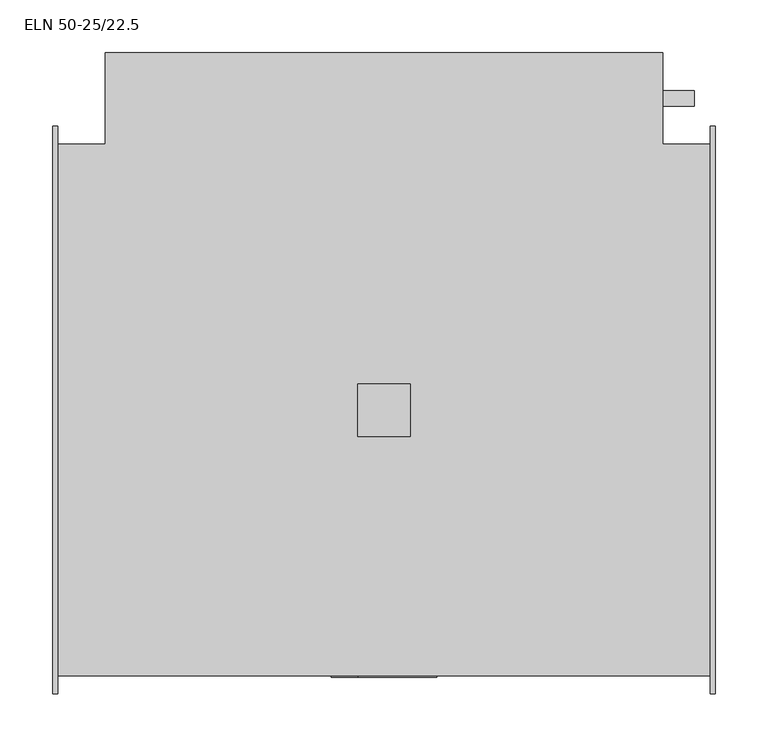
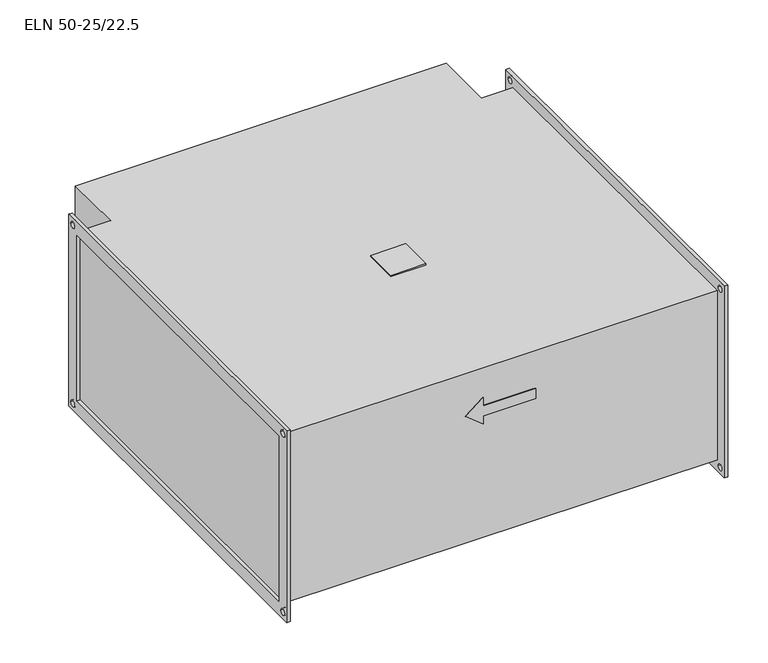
"""IFC4 building model written with IfcOpenShell, lengths in millimetres: proxy geometry, KORF_Нагреватель_Электрический_ELN : ELN 50-25/22.5."""

import ifcopenshell
import ifcopenshell.guid

model = None  # the IFC model being written
_history = None  # IfcOwnerHistory: only IFC2X3 demands one
_inside = {}  # id of a spatial element -> (the spatial element, [elements in it])
_under = {}  # id of a project, library or spatial element -> (it, [spatial elements below it])
_declared = {}  # id of a project -> (the project, [libraries it declares])
_typed = {}  # id of a type object -> (the type object, [elements of that type])
_made_of = {}  # id of a material, layer set ... -> (it, [elements and type objects made of it])


def new_model(schema):
    """Start an empty IFC model of exactly this schema.

    Asked for "IFC4X3", IfcOpenShell would pick the latest addendum, in which some entities
    have other attributes; the version numbers below select the first issue.
    IFC2X3 requires an IfcOwnerHistory on every rooted entity: one is made here for all.
    """
    global model, _history
    if schema == "IFC4X3":
        model = ifcopenshell.file(schema_version=(4, 3, 0, 0))
    else:
        model = ifcopenshell.file(schema=schema)
    _inside.clear()
    _under.clear()
    _declared.clear()
    _typed.clear()
    _made_of.clear()
    _history = None
    if model.schema == "IFC2X3":
        org = make("IfcOrganization", Name="unknown")
        user = make(
            "IfcPersonAndOrganization",
            ThePerson=make("IfcPerson", FamilyName="unknown"),
            TheOrganization=org,
        )
        app = make(
            "IfcApplication",
            ApplicationDeveloper=org,
            Version="unknown",
            ApplicationFullName="unknown",
            ApplicationIdentifier="unknown",
        )
        _history = make(
            "IfcOwnerHistory",
            OwningUser=user,
            OwningApplication=app,
            ChangeAction="ADDED",
            CreationDate=0,
        )
    return model


def make(cls, **values):
    """One entity of the class cls with the attributes given. An attribute that is None is left unset."""
    return model.create_entity(
        cls, **{name: value for name, value in values.items() if value is not None}
    )


def rooted(cls, **values):
    """An entity with a GlobalId (a new one), such as an element, a storey or a relation."""
    return make(cls, GlobalId=ifcopenshell.guid.new(), OwnerHistory=_history, **values)


def si_unit(unit_type, name, prefix=None):
    """IfcSIUnit, for example si_unit("LENGTHUNIT", "METRE", prefix="MILLI")."""
    return make("IfcSIUnit", UnitType=unit_type, Prefix=prefix, Name=name)


def assignment(units):
    """IfcUnitAssignment: the units of a project."""
    return None if units is None else make("IfcUnitAssignment", Units=units)


def point(xyz):
    """IfcCartesianPoint."""
    return None if xyz is None else make("IfcCartesianPoint", Coordinates=xyz)


def direction(xyz):
    """IfcDirection."""
    return None if xyz is None else make("IfcDirection", DirectionRatios=xyz)


def frame(location, z_axis=None, x_axis=None):
    """IfcAxis2Placement3D, a coordinate frame: its origin and axes. An axis left out is left unset."""
    return make(
        "IfcAxis2Placement3D",
        Location=point(location),
        Axis=direction(z_axis),
        RefDirection=direction(x_axis),
    )


def frame_2d(location, x_axis=None):
    """IfcAxis2Placement2D, a coordinate frame in the plane: its origin and x axis."""
    return make(
        "IfcAxis2Placement2D", Location=point(location), RefDirection=direction(x_axis)
    )


def origin():
    """The frame at (0, 0, 0) with its axes left unset."""
    return frame((0.0, 0.0, 0.0))


def place(relative_to, where):
    """IfcLocalPlacement: puts the frame where relative to a parent placement (None: the world)."""
    return make(
        "IfcLocalPlacement", PlacementRelTo=relative_to, RelativePlacement=where
    )


def context(
    kind, dimensions, precision=None, world=None, true_north=None, identifier=None
):
    """IfcGeometricRepresentationContext, for example the 3D "Model" context."""
    return make(
        "IfcGeometricRepresentationContext",
        ContextIdentifier=identifier,
        ContextType=kind,
        CoordinateSpaceDimension=dimensions,
        Precision=precision,
        WorldCoordinateSystem=world,
        TrueNorth=true_north,
    )


def project(units=None, contexts=None):
    """IfcProject with its units and contexts."""
    return rooted(
        "IfcProject",
        Name="project",
        RepresentationContexts=contexts,
        UnitsInContext=assignment(units),
    )


def spatial(cls, under=None, at=None, **own):
    """A site, building, storey or space (cls), placed at a placement, below another one or the project."""
    s = rooted(cls, ObjectPlacement=at, **own)
    if under is not None:
        _under.setdefault(under.id(), (under, []))[1].append(s)
    return s


def polyline(points):
    """IfcPolyline through the points."""
    return make("IfcPolyline", Points=[point(p) for p in points])


def circle_curve(where, radius):
    """IfcCircle in the frame where."""
    return make("IfcCircle", Position=where, Radius=radius)


def trimmed(basis, trim1, trim2, sense, master):
    """IfcTrimmedCurve: the piece of a basis curve between two trims."""
    return make(
        "IfcTrimmedCurve",
        BasisCurve=basis,
        Trim1=trim1,
        Trim2=trim2,
        SenseAgreement=sense,
        MasterRepresentation=master,
    )


def segment(curve, same_sense, transition):
    """IfcCompositeCurveSegment."""
    return make(
        "IfcCompositeCurveSegment",
        Transition=transition,
        SameSense=same_sense,
        ParentCurve=curve,
    )


def composite_curve(segments, self_intersect=None):
    """IfcCompositeCurve: segments joined end to end."""
    return make("IfcCompositeCurve", Segments=segments, SelfIntersect=self_intersect)


def outline(outer, holes=None, kind="AREA"):
    """IfcArbitraryClosedProfileDef: a profile drawn as a closed curve; with holes, ...WithVoids."""
    if holes is None:
        return make("IfcArbitraryClosedProfileDef", ProfileType=kind, OuterCurve=outer)
    return make(
        "IfcArbitraryProfileDefWithVoids",
        ProfileType=kind,
        OuterCurve=outer,
        InnerCurves=holes,
    )


def extrude(swept, where, along, depth):
    """IfcExtrudedAreaSolid: the profile swept, set in the frame where, extruded along a direction by depth."""
    return make(
        "IfcExtrudedAreaSolid",
        SweptArea=swept,
        Position=where,
        ExtrudedDirection=direction(along),
        Depth=depth,
    )


def shape(context_of_items, identifier, shape_type, items):
    """IfcShapeRepresentation: the items that make up one representation, for example the "Body"."""
    return make(
        "IfcShapeRepresentation",
        ContextOfItems=context_of_items,
        RepresentationIdentifier=identifier,
        RepresentationType=shape_type,
        Items=items,
    )


def source(mapping_origin, context_of_items, identifier, shape_type, items):
    """IfcRepresentationMap: a shape defined once, which mapped items show again and again."""
    return make(
        "IfcRepresentationMap",
        MappingOrigin=mapping_origin,
        MappedRepresentation=shape(context_of_items, identifier, shape_type, items),
    )


def transform(
    local_origin,
    x_axis=None,
    y_axis=None,
    z_axis=None,
    scale=None,
    scale2=None,
    scale3=None,
    uniform=True,
):
    """IfcCartesianTransformationOperator3D, or its non-uniform kind. x_axis, y_axis, z_axis: its Axis1, 2, 3."""
    if uniform:
        return make(
            "IfcCartesianTransformationOperator3D",
            Axis1=direction(x_axis),
            Axis2=direction(y_axis),
            LocalOrigin=point(local_origin),
            Scale=scale,
            Axis3=direction(z_axis),
        )
    return make(
        "IfcCartesianTransformationOperator3DnonUniform",
        Axis1=direction(x_axis),
        Axis2=direction(y_axis),
        LocalOrigin=point(local_origin),
        Scale=scale,
        Axis3=direction(z_axis),
        Scale2=scale2,
        Scale3=scale3,
    )


def mapped(mapping_source, mapping_target):
    """IfcMappedItem: shows the shape of a source again, moved by a transform."""
    return make(
        "IfcMappedItem", MappingSource=mapping_source, MappingTarget=mapping_target
    )


def made_of(thing, what):
    """Note that an element or type object is made of a material, layer set ...; save() writes the relation."""
    if what is not None:
        _made_of.setdefault(what.id(), (what, []))[1].append(thing)
    return thing


def element(
    cls,
    number,
    at=None,
    inside=None,
    cuts=None,
    type_object=None,
    material=None,
    context=None,
    identifier="Body",
    shape_type=None,
    held_by="IfcProductDefinitionShape",
    body=None,
    shapes=None,
    **own,
):
    """One element of the class cls, such as IfcWall. Its Tag is "e" and its number.

    at: its placement. inside: the storey or other place that contains it. cuts: it is an
    opening in that element (IfcRelVoidsElement). A single representation is given by context,
    identifier, shape_type and body (its items); several are given by shapes. held_by: the class
    of the entity that holds the representations. save() writes the other relations.
    """
    e = rooted(cls, Tag="e%d" % number, ObjectPlacement=at, **own)
    if body is not None:
        shapes = [shape(context, identifier, shape_type, body)]
    if shapes is not None:
        e.Representation = make(held_by, Representations=shapes)
    if inside is not None:
        _inside.setdefault(inside.id(), (inside, []))[1].append(e)
    if cuts is not None:
        rooted(
            "IfcRelVoidsElement", RelatingBuildingElement=cuts, RelatedOpeningElement=e
        )
    if type_object is not None:
        _typed.setdefault(type_object.id(), (type_object, []))[1].append(e)
    return made_of(e, material)


def aggregate(whole, parts):
    """IfcRelAggregates: a whole, such as a stair, and the parts it consists of."""
    return rooted("IfcRelAggregates", RelatingObject=whole, RelatedObjects=parts)


def save(model, path):
    """Write the relations noted so far, then the file.

    IfcRelAggregates (storeys below a building ...), IfcRelContainedInSpatialStructure (elements
    in a storey), IfcRelDefinesByType, IfcRelAssociatesMaterial and IfcRelDeclares: one each for
    every whole, place, type object, material and project.
    """
    for whole, parts in _under.values():
        aggregate(whole, parts)
    for where, things in _inside.values():
        rooted(
            "IfcRelContainedInSpatialStructure",
            RelatedElements=things,
            RelatingStructure=where,
        )
    for kind, things in _typed.values():
        rooted("IfcRelDefinesByType", RelatedObjects=things, RelatingType=kind)
    for what, things in _made_of.values():
        rooted("IfcRelAssociatesMaterial", RelatedObjects=things, RelatingMaterial=what)
    for by, libraries in _declared.values():
        rooted("IfcRelDeclares", RelatingContext=by, RelatedDefinitions=libraries)
    model.write(path)


def eln_50_25_22_5_e6b17856(model_context):
    return source(origin(), model_context, "Body", "SweptSolid", [
        extrude(outline(polyline([(290.0, -25.0), (290.0, 25.0), (340.0, 25.0), (340.0, -25.0), (290.0, -25.0)])), frame((0.0, 0.0, 128.0), z_axis=(0.0, 0.0, 1.0), x_axis=(1.0, 0.0, 0.0)), (0.0, 0.0, 1.0), 2.0),
        extrude(outline(composite_curve([segment(trimmed(circle_curve(frame_2d((296.5, -64.0)), 7.5), [point((289.0, -64.0))], [point((304.0, -64.0))], False, "CARTESIAN"), True, "CONTINUOUS"), segment(trimmed(circle_curve(frame_2d((296.5, -64.0)), 7.5), [point((304.0, -64.0))], [point((289.0, -64.0))], False, "CARTESIAN"), True, "CONTINUOUS")], self_intersect=False)), frame((580.0, 0.0, 0.0), z_axis=(1.0, 0.0, 0.0), x_axis=(0.0, 1.0, 0.0)), (0.0, 0.0, 1.0), 30.0),
        extrude(outline(composite_curve([segment(trimmed(circle_curve(frame_2d((296.5, -44.0)), 7.5), [point((289.0, -44.0))], [point((304.0, -44.0))], False, "CARTESIAN"), True, "CONTINUOUS"), segment(trimmed(circle_curve(frame_2d((296.5, -44.0)), 7.5), [point((304.0, -44.0))], [point((289.0, -44.0))], False, "CARTESIAN"), True, "CONTINUOUS")], self_intersect=False)), frame((580.0, 0.0, 0.0), z_axis=(1.0, 0.0, 0.0), x_axis=(0.0, 1.0, 0.0)), (0.0, 0.0, 1.0), 30.0),
        extrude(outline(composite_curve([segment(trimmed(circle_curve(frame_2d((296.5, -84.0)), 7.5), [point((289.0, -84.0))], [point((304.0, -84.0))], False, "CARTESIAN"), True, "CONTINUOUS"), segment(trimmed(circle_curve(frame_2d((296.5, -84.0)), 7.5), [point((304.0, -84.0))], [point((289.0, -84.0))], False, "CARTESIAN"), True, "CONTINUOUS")], self_intersect=False)), frame((580.0, 0.0, 0.0), z_axis=(1.0, 0.0, 0.0), x_axis=(0.0, 1.0, 0.0)), (0.0, 0.0, 1.0), 30.0),
        extrude(outline(polyline([(84.0, 290.0), (64.0, 265.0), (44.0, 290.0), (56.5, 290.0), (56.5, 365.0), (71.5, 365.0), (71.5, 290.0), (84.0, 290.0)])), frame((0.0, -254.0, 0.0), z_axis=(0.0, 1.0, 0.0), x_axis=(0.0, 0.0, 1.0)), (0.0, 0.0, 1.0), 1.0),
        extrude(outline(polyline([(625.0, 253.0), (625.0, -253.0), (5.0, -253.0), (5.0, 253.0), (50.0, 253.0), (50.0, 340.0), (580.0, 340.0), (580.0, 253.0), (625.0, 253.0)])), frame((0.0, 0.0, -128.0), z_axis=(0.0, 0.0, 1.0), x_axis=(1.0, 0.0, 0.0)), (0.0, 0.0, 1.0), 256.0),
        extrude(outline(polyline([(-270.0, 145.0), (270.0, 145.0), (270.0, -145.0), (-270.0, -145.0), (-270.0, 145.0)]), holes=[polyline([(-250.0, 125.0), (-250.0, -125.0), (250.0, -125.0), (250.0, 125.0), (-250.0, 125.0)]), composite_curve([segment(trimmed(circle_curve(frame_2d((260.0, 135.0)), 4.5), [point((255.5, 135.0))], [point((264.5, 135.0))], True, "CARTESIAN"), True, "CONTINUOUS"), segment(trimmed(circle_curve(frame_2d((260.0, 135.0)), 4.5), [point((264.5, 135.0))], [point((255.5, 135.0))], True, "CARTESIAN"), True, "CONTINUOUS")], self_intersect=False), composite_curve([segment(trimmed(circle_curve(frame_2d((-260.0, 135.0)), 4.5), [point((-264.5, 135.0))], [point((-255.5, 135.0))], True, "CARTESIAN"), True, "CONTINUOUS"), segment(trimmed(circle_curve(frame_2d((-260.0, 135.0)), 4.5), [point((-255.5, 135.0))], [point((-264.5, 135.0))], True, "CARTESIAN"), True, "CONTINUOUS")], self_intersect=False), composite_curve([segment(trimmed(circle_curve(frame_2d((-260.0, -135.0)), 4.5), [point((-264.5, -135.0))], [point((-255.5, -135.0))], True, "CARTESIAN"), True, "CONTINUOUS"), segment(trimmed(circle_curve(frame_2d((-260.0, -135.0)), 4.5), [point((-255.5, -135.0))], [point((-264.5, -135.0))], True, "CARTESIAN"), True, "CONTINUOUS")], self_intersect=False), composite_curve([segment(trimmed(circle_curve(frame_2d((260.0, -135.0)), 4.5), [point((255.5, -135.0))], [point((264.5, -135.0))], True, "CARTESIAN"), True, "CONTINUOUS"), segment(trimmed(circle_curve(frame_2d((260.0, -135.0)), 4.5), [point((264.5, -135.0))], [point((255.5, -135.0))], True, "CARTESIAN"), True, "CONTINUOUS")], self_intersect=False)]), frame((625.0, 0.0, 0.0), z_axis=(1.0, 0.0, 0.0), x_axis=(0.0, 1.0, 0.0)), (0.0, 0.0, 1.0), 5.0),
        extrude(outline(polyline([(-270.0, 145.0), (270.0, 145.0), (270.0, -145.0), (-270.0, -145.0), (-270.0, 145.0)]), holes=[polyline([(-250.0, 125.0), (-250.0, -125.0), (250.0, -125.0), (250.0, 125.0), (-250.0, 125.0)]), composite_curve([segment(trimmed(circle_curve(frame_2d((260.0, 135.0)), 4.5), [point((255.5, 135.0))], [point((264.5, 135.0))], True, "CARTESIAN"), True, "CONTINUOUS"), segment(trimmed(circle_curve(frame_2d((260.0, 135.0)), 4.5), [point((264.5, 135.0))], [point((255.5, 135.0))], True, "CARTESIAN"), True, "CONTINUOUS")], self_intersect=False), composite_curve([segment(trimmed(circle_curve(frame_2d((-260.0, 135.0)), 4.5), [point((-264.5, 135.0))], [point((-255.5, 135.0))], True, "CARTESIAN"), True, "CONTINUOUS"), segment(trimmed(circle_curve(frame_2d((-260.0, 135.0)), 4.5), [point((-255.5, 135.0))], [point((-264.5, 135.0))], True, "CARTESIAN"), True, "CONTINUOUS")], self_intersect=False), composite_curve([segment(trimmed(circle_curve(frame_2d((-260.0, -135.0)), 4.5), [point((-264.5, -135.0))], [point((-255.5, -135.0))], True, "CARTESIAN"), True, "CONTINUOUS"), segment(trimmed(circle_curve(frame_2d((-260.0, -135.0)), 4.5), [point((-255.5, -135.0))], [point((-264.5, -135.0))], True, "CARTESIAN"), True, "CONTINUOUS")], self_intersect=False), composite_curve([segment(trimmed(circle_curve(frame_2d((260.0, -135.0)), 4.5), [point((255.5, -135.0))], [point((264.5, -135.0))], True, "CARTESIAN"), True, "CONTINUOUS"), segment(trimmed(circle_curve(frame_2d((260.0, -135.0)), 4.5), [point((264.5, -135.0))], [point((255.5, -135.0))], True, "CARTESIAN"), True, "CONTINUOUS")], self_intersect=False)]), frame((0.0, 0.0, 0.0), z_axis=(1.0, 0.0, 0.0), x_axis=(0.0, 1.0, 0.0)), (0.0, 0.0, 1.0), 5.0),
    ])


if __name__ == "__main__":
    model = new_model("IFC4")
    model_context = context("Model", 3, world=origin())
    ifc_project = project(units=[si_unit("LENGTHUNIT", "METRE", prefix="MILLI")], contexts=[model_context])
    site = spatial("IfcSite", under=ifc_project)
    building = spatial("IfcBuilding", under=site)
    placement = place(None, origin())
    eln_50_25_22_5_shape = eln_50_25_22_5_e6b17856(model_context)
    element("IfcBuildingElementProxy", 1, Name="KORF_Нагреватель_Электрический_ELN : ELN 50-25/22.5", ObjectType="KORF_Нагреватель_Электрический_ELN : ELN 50-25/22.5", at=placement, inside=building, context=model_context, shape_type="MappedRepresentation", body=[
        mapped(eln_50_25_22_5_shape, transform((0.0, 0.0, 0.0), x_axis=(1.0, 0.0, 0.0), y_axis=(0.0, 1.0, 0.0), z_axis=(0.0, 0.0, 1.0))),
    ])
    save(model, "model.ifc")
